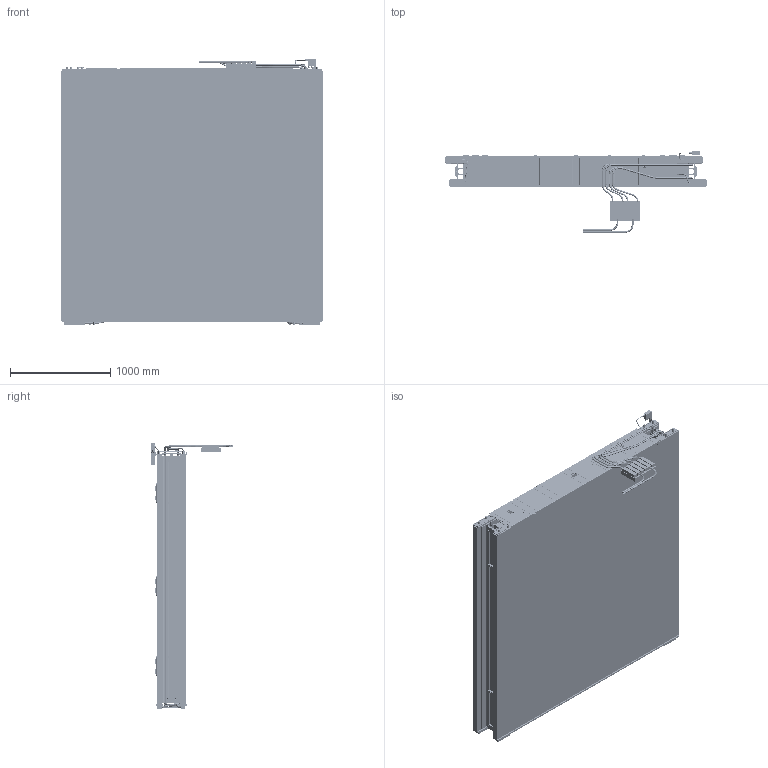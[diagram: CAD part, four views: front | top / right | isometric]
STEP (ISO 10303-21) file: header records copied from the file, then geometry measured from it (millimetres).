
FILE_DESCRIPTION(/* description */ (''),/* implementation_level */ '2;1');
FILE_NAME(/* name */ '040209_mb410_2_4_10_dx_phi_L_carters.stp',/* time_stamp */ '2022-04-13T17:10:31+02:00',/* author */ (''),/* organization */ (''),/* preprocessor_version */ 'ST-DEVELOPER v18.1',/* originating_system */ 'SIEMENS PLM Software NX 1992',/* authorisation */ '');
FILE_SCHEMA (('AUTOMOTIVE_DESIGN { 1 0 10303 214 3 1 1 1 }'));
Products named in the file (1): zago2B10850Da2o4
Bounding box: 2612 x 815.75 x 2646.02 mm (x, y, z)
Volume: 1743225110.8 mm3; surface area: 151923270.5 mm2
Topology: 260 solids, 260 shells, 11297 faces, 28593 edges, 17833 vertices
Faces by surface type: plane 7041, cylinder 3331, cone 728, bspline 109, torus 64, sphere 24
Full cylindrical faces by diameter (mm): 1 x148, 1.675 x8, 2.594 x36, 3 x48, 3.2 x8, 3.25 x2, 3.3 x24, 3.432 x331, 3.5 x38, 3.778 x7, 4 x34, 4.351 x4, 4.8 x34, 5 x58, 5.188 x44, 5.5 x216, 6 x23, 6.4 x50, 6.5 x17, 7 x2, 7.188 x4, 7.5 x48, 8 x39, 8.6 x4, 8.782 x4, 8.8 x10, 8.933 x16, 8.985 x24, 9 x2, 9.061 x2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
Entity records: 349161 total; most frequent: CARTESIAN_POINT 83176, DIRECTION 51106, ORIENTED_EDGE 50106, EDGE_CURVE 25053, AXIS2_PLACEMENT_3D 17967, VERTEX_POINT 16845, EDGE_LOOP 15919, LINE 15172
